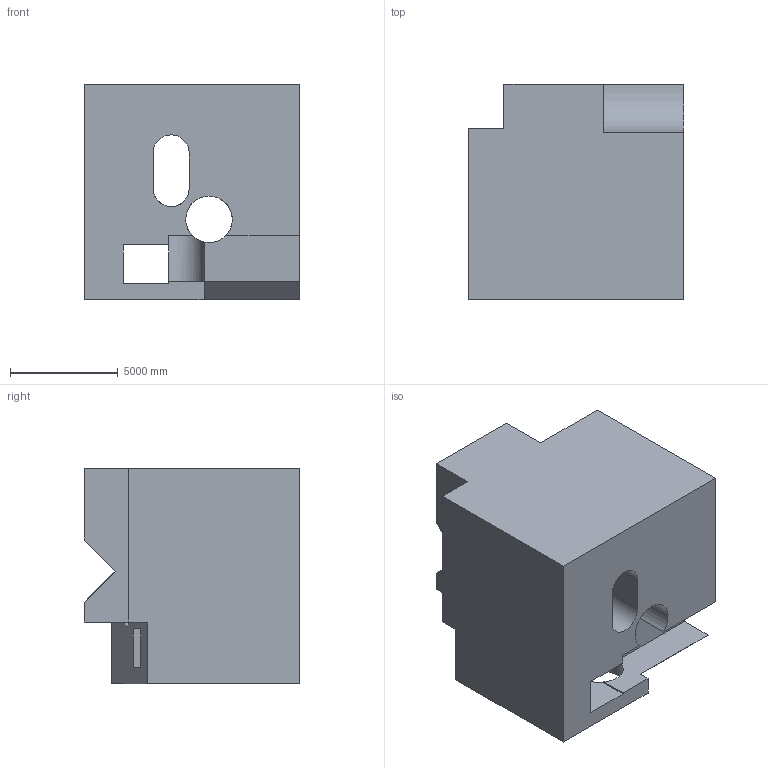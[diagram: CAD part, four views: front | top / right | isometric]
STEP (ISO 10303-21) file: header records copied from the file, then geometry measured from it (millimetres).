
FILE_DESCRIPTION (( 'STEP AP203' ), '1' );
FILE_NAME ('1908.STEP', '2022-08-25T16:44:58', ( 'user' ), ( '' ), 'SwSTEP 2.0', 'SolidWorks 2021', '' );
FILE_SCHEMA (( 'CONFIG_CONTROL_DESIGN' ));
Length unit declared in the file: centimetre
Products named in the file (1): 1908
Bounding box: 10000 x 10000 x 10000 mm (x, y, z)
Volume: 734943065852.9 mm3; surface area: 764165079.5 mm2
Topology: 1 solids, 1 shells, 42 faces, 138 edges, 92 vertices
Faces by surface type: plane 33, cylinder 9
Entity records: 1773 total; most frequent: CARTESIAN_POINT 467, ORIENTED_EDGE 276, DIRECTION 239, EDGE_CURVE 138, LINE 103, VECTOR 103, VERTEX_POINT 92, AXIS2_PLACEMENT_3D 68
